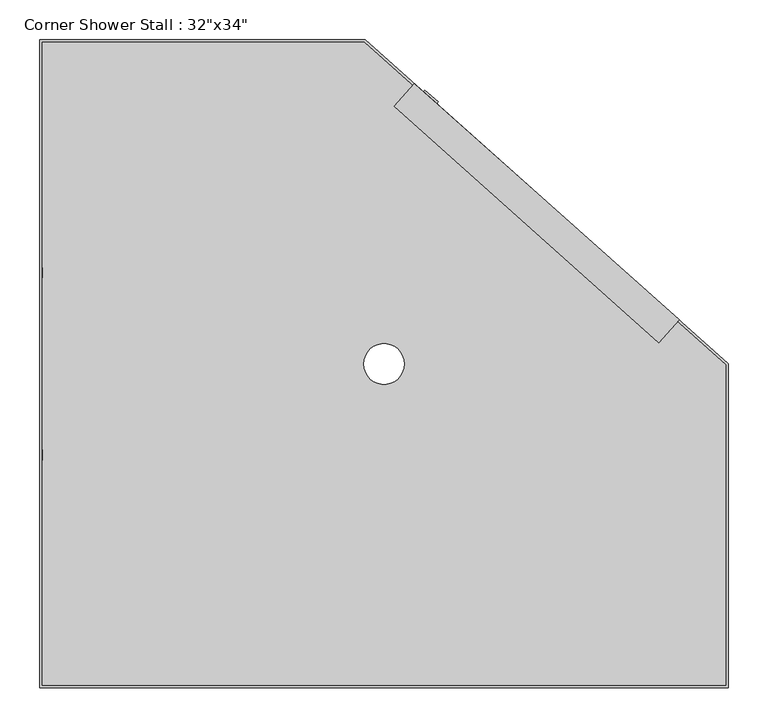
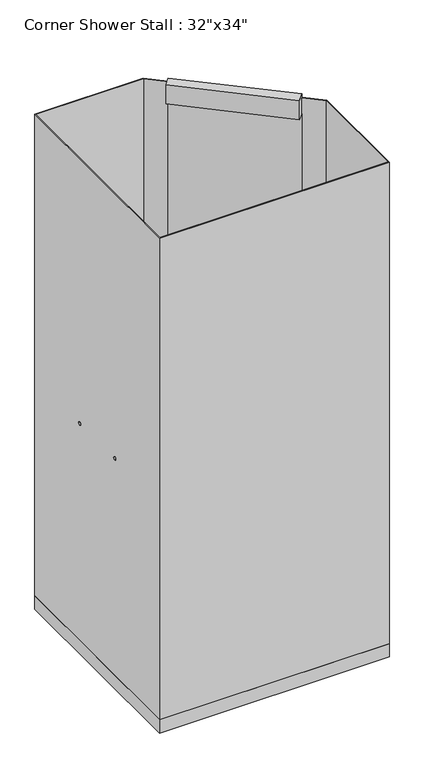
"""IFC4 building model written with IfcOpenShell, lengths in millimetres: flow terminal geometry."""

import ifcopenshell
import ifcopenshell.guid

model = None  # the IFC model being written
_history = None  # IfcOwnerHistory: only IFC2X3 demands one
_inside = {}  # id of a spatial element -> (the spatial element, [elements in it])
_under = {}  # id of a project, library or spatial element -> (it, [spatial elements below it])
_declared = {}  # id of a project -> (the project, [libraries it declares])
_typed = {}  # id of a type object -> (the type object, [elements of that type])
_made_of = {}  # id of a material, layer set ... -> (it, [elements and type objects made of it])


def new_model(schema):
    """Start an empty IFC model of exactly this schema.

    Asked for "IFC4X3", IfcOpenShell would pick the latest addendum, in which some entities
    have other attributes; the version numbers below select the first issue.
    IFC2X3 requires an IfcOwnerHistory on every rooted entity: one is made here for all.
    """
    global model, _history
    if schema == "IFC4X3":
        model = ifcopenshell.file(schema_version=(4, 3, 0, 0))
    else:
        model = ifcopenshell.file(schema=schema)
    _inside.clear()
    _under.clear()
    _declared.clear()
    _typed.clear()
    _made_of.clear()
    _history = None
    if model.schema == "IFC2X3":
        org = make("IfcOrganization", Name="unknown")
        user = make(
            "IfcPersonAndOrganization",
            ThePerson=make("IfcPerson", FamilyName="unknown"),
            TheOrganization=org,
        )
        app = make(
            "IfcApplication",
            ApplicationDeveloper=org,
            Version="unknown",
            ApplicationFullName="unknown",
            ApplicationIdentifier="unknown",
        )
        _history = make(
            "IfcOwnerHistory",
            OwningUser=user,
            OwningApplication=app,
            ChangeAction="ADDED",
            CreationDate=0,
        )
    return model


def make(cls, **values):
    """One entity of the class cls with the attributes given. An attribute that is None is left unset."""
    return model.create_entity(
        cls, **{name: value for name, value in values.items() if value is not None}
    )


def rooted(cls, **values):
    """An entity with a GlobalId (a new one), such as an element, a storey or a relation."""
    return make(cls, GlobalId=ifcopenshell.guid.new(), OwnerHistory=_history, **values)


def si_unit(unit_type, name, prefix=None):
    """IfcSIUnit, for example si_unit("LENGTHUNIT", "METRE", prefix="MILLI")."""
    return make("IfcSIUnit", UnitType=unit_type, Prefix=prefix, Name=name)


def assignment(units):
    """IfcUnitAssignment: the units of a project."""
    return None if units is None else make("IfcUnitAssignment", Units=units)


def point(xyz):
    """IfcCartesianPoint."""
    return None if xyz is None else make("IfcCartesianPoint", Coordinates=xyz)


def direction(xyz):
    """IfcDirection."""
    return None if xyz is None else make("IfcDirection", DirectionRatios=xyz)


def frame(location, z_axis=None, x_axis=None):
    """IfcAxis2Placement3D, a coordinate frame: its origin and axes. An axis left out is left unset."""
    return make(
        "IfcAxis2Placement3D",
        Location=point(location),
        Axis=direction(z_axis),
        RefDirection=direction(x_axis),
    )


def frame_2d(location, x_axis=None):
    """IfcAxis2Placement2D, a coordinate frame in the plane: its origin and x axis."""
    return make(
        "IfcAxis2Placement2D", Location=point(location), RefDirection=direction(x_axis)
    )


def origin():
    """The frame at (0, 0, 0) with its axes left unset."""
    return frame((0.0, 0.0, 0.0))


def origin_with_axes():
    """The frame at (0, 0, 0) with the z axis (0, 0, 1) and the x axis (1, 0, 0) written out."""
    return frame((0.0, 0.0, 0.0), z_axis=(0.0, 0.0, 1.0), x_axis=(1.0, 0.0, 0.0))


def place(relative_to, where):
    """IfcLocalPlacement: puts the frame where relative to a parent placement (None: the world)."""
    return make(
        "IfcLocalPlacement", PlacementRelTo=relative_to, RelativePlacement=where
    )


def context(
    kind, dimensions, precision=None, world=None, true_north=None, identifier=None
):
    """IfcGeometricRepresentationContext, for example the 3D "Model" context."""
    return make(
        "IfcGeometricRepresentationContext",
        ContextIdentifier=identifier,
        ContextType=kind,
        CoordinateSpaceDimension=dimensions,
        Precision=precision,
        WorldCoordinateSystem=world,
        TrueNorth=true_north,
    )


def project(units=None, contexts=None):
    """IfcProject with its units and contexts."""
    return rooted(
        "IfcProject",
        Name="project",
        RepresentationContexts=contexts,
        UnitsInContext=assignment(units),
    )


def spatial(cls, under=None, at=None, **own):
    """A site, building, storey or space (cls), placed at a placement, below another one or the project."""
    s = rooted(cls, ObjectPlacement=at, **own)
    if under is not None:
        _under.setdefault(under.id(), (under, []))[1].append(s)
    return s


def polyline(points):
    """IfcPolyline through the points."""
    return make("IfcPolyline", Points=[point(p) for p in points])


def circle_curve(where, radius):
    """IfcCircle in the frame where."""
    return make("IfcCircle", Position=where, Radius=radius)


def trimmed(basis, trim1, trim2, sense, master):
    """IfcTrimmedCurve: the piece of a basis curve between two trims."""
    return make(
        "IfcTrimmedCurve",
        BasisCurve=basis,
        Trim1=trim1,
        Trim2=trim2,
        SenseAgreement=sense,
        MasterRepresentation=master,
    )


def segment(curve, same_sense, transition):
    """IfcCompositeCurveSegment."""
    return make(
        "IfcCompositeCurveSegment",
        Transition=transition,
        SameSense=same_sense,
        ParentCurve=curve,
    )


def composite_curve(segments, self_intersect=None):
    """IfcCompositeCurve: segments joined end to end."""
    return make("IfcCompositeCurve", Segments=segments, SelfIntersect=self_intersect)


def outline(outer, holes=None, kind="AREA"):
    """IfcArbitraryClosedProfileDef: a profile drawn as a closed curve; with holes, ...WithVoids."""
    if holes is None:
        return make("IfcArbitraryClosedProfileDef", ProfileType=kind, OuterCurve=outer)
    return make(
        "IfcArbitraryProfileDefWithVoids",
        ProfileType=kind,
        OuterCurve=outer,
        InnerCurves=holes,
    )


def extrude(swept, where, along, depth):
    """IfcExtrudedAreaSolid: the profile swept, set in the frame where, extruded along a direction by depth."""
    return make(
        "IfcExtrudedAreaSolid",
        SweptArea=swept,
        Position=where,
        ExtrudedDirection=direction(along),
        Depth=depth,
    )


def faces_of(points, faces, orient=None, outer=None):
    """IfcFace entities. A face is a list of loops; a loop is a list of indices into points, from 0.

    orient and outer hold one flag for each loop. By default every Orientation is true, the
    first loop of a face is its IfcFaceOuterBound and the others are IfcFaceBound.
    """
    made = []
    for i, loops in enumerate(faces):
        bounds = []
        for j, loop in enumerate(loops):
            is_outer = j == 0 if outer is None else outer[i][j]
            bounds.append(
                make(
                    "IfcFaceOuterBound" if is_outer else "IfcFaceBound",
                    Bound=make("IfcPolyLoop", Polygon=[points[k] for k in loop]),
                    Orientation=True if orient is None else orient[i][j],
                )
            )
        made.append(make("IfcFace", Bounds=bounds))
    return made


def faceted_brep(points, faces, orient=None, outer=None, voids=None):
    """IfcFacetedBrep: a solid bounded by flat faces; with voids (closed shells), ...WithVoids."""
    shared = [point(p) for p in points]
    hull = make("IfcClosedShell", CfsFaces=faces_of(shared, faces, orient, outer))
    if voids is None:
        return make("IfcFacetedBrep", Outer=hull)
    return make(
        "IfcFacetedBrepWithVoids",
        Outer=hull,
        Voids=[
            make(cls, CfsFaces=faces_of(shared, fs, o, b)) for cls, fs, o, b in voids
        ],
    )


def shape(context_of_items, identifier, shape_type, items):
    """IfcShapeRepresentation: the items that make up one representation, for example the "Body"."""
    return make(
        "IfcShapeRepresentation",
        ContextOfItems=context_of_items,
        RepresentationIdentifier=identifier,
        RepresentationType=shape_type,
        Items=items,
    )


def source(mapping_origin, context_of_items, identifier, shape_type, items):
    """IfcRepresentationMap: a shape defined once, which mapped items show again and again."""
    return make(
        "IfcRepresentationMap",
        MappingOrigin=mapping_origin,
        MappedRepresentation=shape(context_of_items, identifier, shape_type, items),
    )


def transform(
    local_origin,
    x_axis=None,
    y_axis=None,
    z_axis=None,
    scale=None,
    scale2=None,
    scale3=None,
    uniform=True,
):
    """IfcCartesianTransformationOperator3D, or its non-uniform kind. x_axis, y_axis, z_axis: its Axis1, 2, 3."""
    if uniform:
        return make(
            "IfcCartesianTransformationOperator3D",
            Axis1=direction(x_axis),
            Axis2=direction(y_axis),
            LocalOrigin=point(local_origin),
            Scale=scale,
            Axis3=direction(z_axis),
        )
    return make(
        "IfcCartesianTransformationOperator3DnonUniform",
        Axis1=direction(x_axis),
        Axis2=direction(y_axis),
        LocalOrigin=point(local_origin),
        Scale=scale,
        Axis3=direction(z_axis),
        Scale2=scale2,
        Scale3=scale3,
    )


def mapped(mapping_source, mapping_target):
    """IfcMappedItem: shows the shape of a source again, moved by a transform."""
    return make(
        "IfcMappedItem", MappingSource=mapping_source, MappingTarget=mapping_target
    )


def made_of(thing, what):
    """Note that an element or type object is made of a material, layer set ...; save() writes the relation."""
    if what is not None:
        _made_of.setdefault(what.id(), (what, []))[1].append(thing)
    return thing


def element(
    cls,
    number,
    at=None,
    inside=None,
    cuts=None,
    type_object=None,
    material=None,
    context=None,
    identifier="Body",
    shape_type=None,
    held_by="IfcProductDefinitionShape",
    body=None,
    shapes=None,
    **own,
):
    """One element of the class cls, such as IfcWall. Its Tag is "e" and its number.

    at: its placement. inside: the storey or other place that contains it. cuts: it is an
    opening in that element (IfcRelVoidsElement). A single representation is given by context,
    identifier, shape_type and body (its items); several are given by shapes. held_by: the class
    of the entity that holds the representations. save() writes the other relations.
    """
    e = rooted(cls, Tag="e%d" % number, ObjectPlacement=at, **own)
    if body is not None:
        shapes = [shape(context, identifier, shape_type, body)]
    if shapes is not None:
        e.Representation = make(held_by, Representations=shapes)
    if inside is not None:
        _inside.setdefault(inside.id(), (inside, []))[1].append(e)
    if cuts is not None:
        rooted(
            "IfcRelVoidsElement", RelatingBuildingElement=cuts, RelatedOpeningElement=e
        )
    if type_object is not None:
        _typed.setdefault(type_object.id(), (type_object, []))[1].append(e)
    return made_of(e, material)


def aggregate(whole, parts):
    """IfcRelAggregates: a whole, such as a stair, and the parts it consists of."""
    return rooted("IfcRelAggregates", RelatingObject=whole, RelatedObjects=parts)


def save(model, path):
    """Write the relations noted so far, then the file.

    IfcRelAggregates (storeys below a building ...), IfcRelContainedInSpatialStructure (elements
    in a storey), IfcRelDefinesByType, IfcRelAssociatesMaterial and IfcRelDeclares: one each for
    every whole, place, type object, material and project.
    """
    for whole, parts in _under.values():
        aggregate(whole, parts)
    for where, things in _inside.values():
        rooted(
            "IfcRelContainedInSpatialStructure",
            RelatedElements=things,
            RelatingStructure=where,
        )
    for kind, things in _typed.values():
        rooted("IfcRelDefinesByType", RelatedObjects=things, RelatingType=kind)
    for what, things in _made_of.values():
        rooted("IfcRelAssociatesMaterial", RelatedObjects=things, RelatingMaterial=what)
    for by, libraries in _declared.values():
        rooted("IfcRelDeclares", RelatingContext=by, RelatedDefinitions=libraries)
    model.write(path)


def flow_terminal_45145805(model_context):
    return source(origin(), model_context, "Body", "SolidModel", [
        extrude(outline(polyline([(751.6282125, 761.252928), (734.854043, 776.2152534), (736.9674944, 778.5846306), (753.7416639, 763.6223051), (751.6282125, 761.252928)])), frame((0.0, 0.0, 875.109375), z_axis=(0.0, 0.0, 1.0), x_axis=(1.0, 0.0, 0.0)), (0.0, 0.0, 1.0), 107.95),
        extrude(outline(polyline([(253.7804724, 841.4070097), (661.7679724, 841.4070097), (1117.3804724, 435.0070097), (1117.3804724, 28.6070097), (253.7804724, 28.6070097), (253.7804724, 841.4070097)]), holes=[composite_curve([segment(trimmed(circle_curve(frame_2d((685.5804724, 435.0070097)), 25.4), [point((660.1804724, 435.0070097))], [point((710.9804724, 435.0070097))], True, "CARTESIAN"), True, "CONTINUOUS"), segment(trimmed(circle_curve(frame_2d((685.5804724, 435.0070097)), 25.4), [point((710.9804724, 435.0070097))], [point((660.1804724, 435.0070097))], True, "CARTESIAN"), True, "CONTINUOUS")], self_intersect=False)]), origin_with_axes(), (0.0, 0.0, 1.0), 52.272544),
        extrude(outline(composite_curve([segment(trimmed(circle_curve(frame_2d((320.7070097, 914.4)), 6.35), [point((314.3570097, 914.4))], [point((327.0570097, 914.4))], False, "CARTESIAN"), True, "CONTINUOUS"), segment(trimmed(circle_curve(frame_2d((320.7070097, 914.4)), 6.35), [point((327.0570097, 914.4))], [point((314.3570097, 914.4))], False, "CARTESIAN"), True, "CONTINUOUS")], self_intersect=False)), frame((253.7804724, 0.0, 0.0), z_axis=(1.0, 0.0, 0.0), x_axis=(0.0, 1.0, 0.0)), (0.0, 0.0, 1.0), 3.175),
        extrude(outline(composite_curve([segment(trimmed(circle_curve(frame_2d((549.1666913, 914.4)), 6.35), [point((542.8166913, 914.4))], [point((555.5166913, 914.4))], False, "CARTESIAN"), True, "CONTINUOUS"), segment(trimmed(circle_curve(frame_2d((549.1666913, 914.4)), 6.35), [point((555.5166913, 914.4))], [point((542.8166913, 914.4))], False, "CARTESIAN"), True, "CONTINUOUS")], self_intersect=False)), frame((253.7804724, 0.0, 0.0), z_axis=(1.0, 0.0, 0.0), x_axis=(0.0, 1.0, 0.0)), (0.0, 0.0, 1.0), 3.175),
        extrude(outline(polyline([(723.6252825, 786.2311513), (1055.7766662, 489.9567463), (1053.6632148, 487.5873692), (721.5118311, 783.8617741), (723.6252825, 786.2311513)])), frame((0.0, 0.0, 52.272544), z_axis=(0.0, 0.0, 1.0), x_axis=(1.0, 0.0, 0.0)), (0.0, 0.0, 1.0), 1850.346206),
        extrude(outline(polyline([(723.6252825, 786.2311513), (1055.7766662, 489.9567463), (1030.4152493, 461.5242204), (698.2638656, 757.7986253), (723.6252825, 786.2311513)])), frame((0.0, 0.0, 1902.61875), z_axis=(0.0, 0.0, 1.0), x_axis=(1.0, 0.0, 0.0)), (0.0, 0.0, 1.0), 76.2),
        faceted_brep([(253.7804724, 841.4070097, 1966.11875), (253.7804724, 28.6070097, 1966.11875), (1117.3804724, 28.6070097, 1966.11875), (1117.3804724, 435.0070097, 1966.11875), (661.7679724, 841.4070097, 1966.11875), (256.9554724, 838.2320097, 1966.11875), (660.5576998, 838.2320097, 1966.11875), (1114.2054724, 433.5845191, 1966.11875), (1114.2054724, 31.7820097, 1966.11875), (256.9554724, 31.7820097, 1966.11875), (253.7804724, 841.4070097, 52.272544), (661.7679724, 841.4070097, 52.272544), (723.6252825, 786.2311513, 52.272544), (721.5118311, 783.8617741, 52.272544), (660.5576998, 838.2320097, 52.272544), (256.9554724, 838.2320097, 52.272544), (256.9554724, 31.7820097, 52.272544), (1114.2054724, 31.7820097, 52.272544), (1114.2054724, 433.5845191, 52.272544), (1053.6632148, 487.5873692, 52.272544), (1055.7766662, 489.9567463, 52.272544), (1117.3804724, 435.0070097, 52.272544), (1117.3804724, 28.6070097, 52.272544), (253.7804724, 28.6070097, 52.272544), (1055.7766662, 489.9567463, 1902.61875), (723.6252825, 786.2311513, 1902.61875), (721.5118311, 783.8617741, 1902.61875), (1053.6632148, 487.5873692, 1902.61875)], [[[0, 1, 2, 3, 4], [5, 6, 7, 8, 9]], [[10, 11, 12, 13, 14, 15, 16, 17, 18, 19, 20, 21, 22, 23]], [[1, 0, 10, 23]], [[2, 1, 23, 22]], [[3, 2, 22, 21]], [[4, 3, 21, 20, 24, 25, 12, 11]], [[0, 4, 11, 10]], [[6, 5, 15, 14]], [[7, 6, 14, 13, 26, 27, 19, 18]], [[8, 7, 18, 17]], [[9, 8, 17, 16]], [[5, 9, 16, 15]], [[27, 24, 20, 19]], [[24, 27, 26, 25]], [[25, 26, 13, 12]]]),
    ])


if __name__ == "__main__":
    model = new_model("IFC4")
    model_context = context("Model", 3, world=origin())
    ifc_project = project(units=[si_unit("LENGTHUNIT", "METRE", prefix="MILLI")], contexts=[model_context])
    site = spatial("IfcSite", under=ifc_project)
    building = spatial("IfcBuilding", under=site)
    placement = place(None, origin())
    flow_terminal_shape = flow_terminal_45145805(model_context)
    element("IfcFlowTerminal", 1, ObjectType="Corner Shower Stall : 32\"x34\"", at=placement, inside=building, context=model_context, shape_type="MappedRepresentation", body=[
        mapped(flow_terminal_shape, transform((0.0, 0.0, 0.0), x_axis=(1.0, 0.0, 0.0), y_axis=(0.0, 1.0, 0.0), z_axis=(0.0, 0.0, 1.0))),
    ])
    save(model, "model.ifc")
